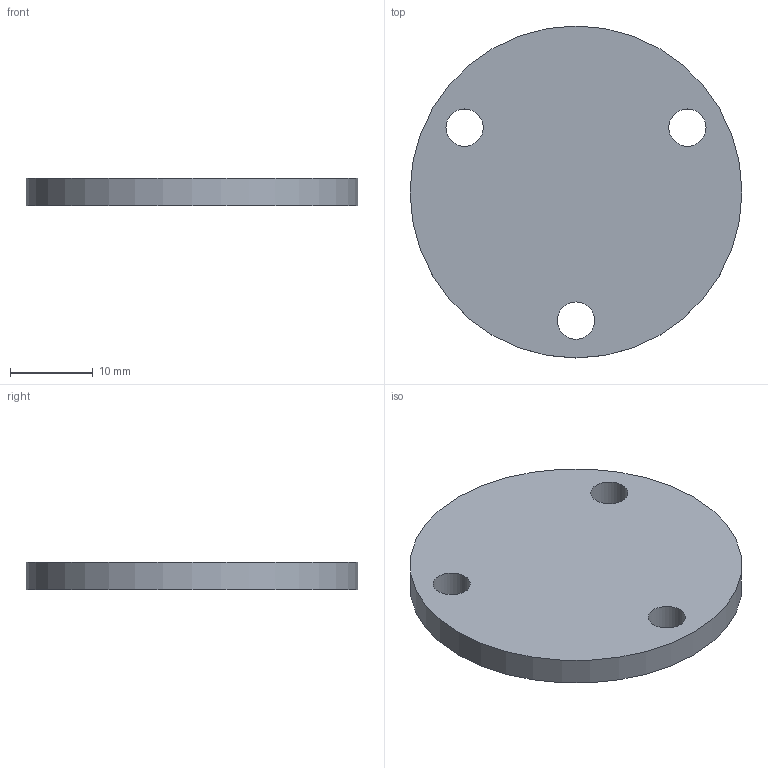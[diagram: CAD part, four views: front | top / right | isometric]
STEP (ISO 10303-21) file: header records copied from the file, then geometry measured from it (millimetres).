
FILE_DESCRIPTION(/* description */ ('STEP AP242 Edition 2','CAx-IF Rec.Pracs.---Representation and Presentation of Product Manufacturing Information (PMI)---4.0---2014-10-13','CAx-IF Rec.Pracs.---3D Tessellated Geometry---0.4---2014-09-14','2;1','CAx-IF Rec.Pracs.---User Defined Attributes---1.5---2016-08-15'),/* implementation_level */ '2;1');
FILE_NAME(/* name */ 'Tarok - Total Assemply - Connector slide',/* time_stamp */ '2026-05-23T09:32:38Z',/* author */ (''),/* organization */ (''),/* preprocessor_version */ 'ST-DEVELOPER v20',/* originating_system */ 'ONSHAPE BY PTC INC, 1.215',/* authorisation */ ' ');
FILE_SCHEMA (('AP242_MANAGED_MODEL_BASED_3D_ENGINEERING_MIM_LF { 1 0 10303 442 3 1 4 }'));
Length unit declared in the file: metre
Products named in the file (1): Connector slide
Bounding box: 40 x 40 x 3.34 mm (x, y, z)
Volume: 3915.6 mm3; surface area: 3084.8 mm2
Topology: 1 solids, 1 shells, 12 faces, 21 edges, 14 vertices
Faces by surface type: cylinder 7, plane 5
Full cylindrical faces by diameter (mm): 4.5 x6, 40 x1
Entity records: 298 total; most frequent: DIRECTION 54, CARTESIAN_POINT 41, ORIENTED_EDGE 28, EDGE_LOOP 28, FACE_BOUND 28, AXIS2_PLACEMENT_3D 27, EDGE_CURVE 14, VERTEX_POINT 14
